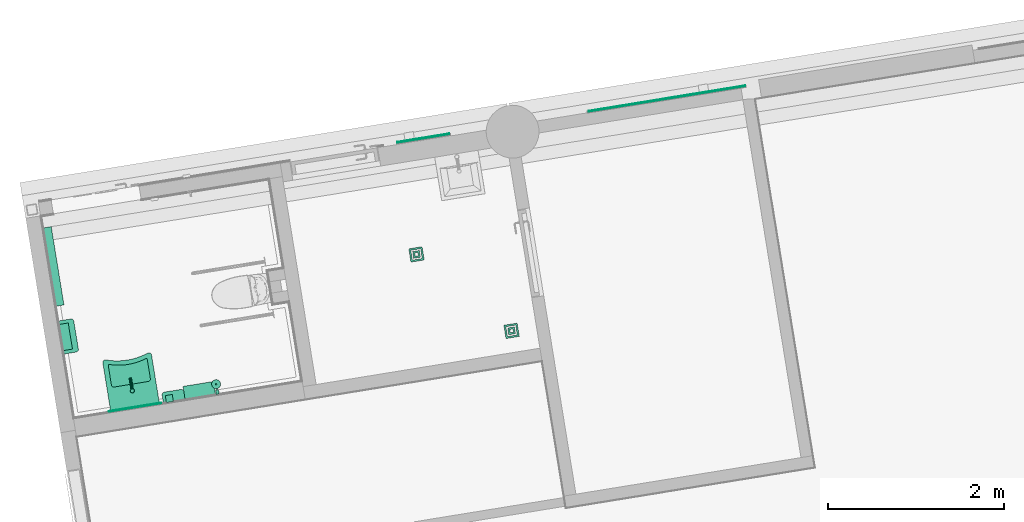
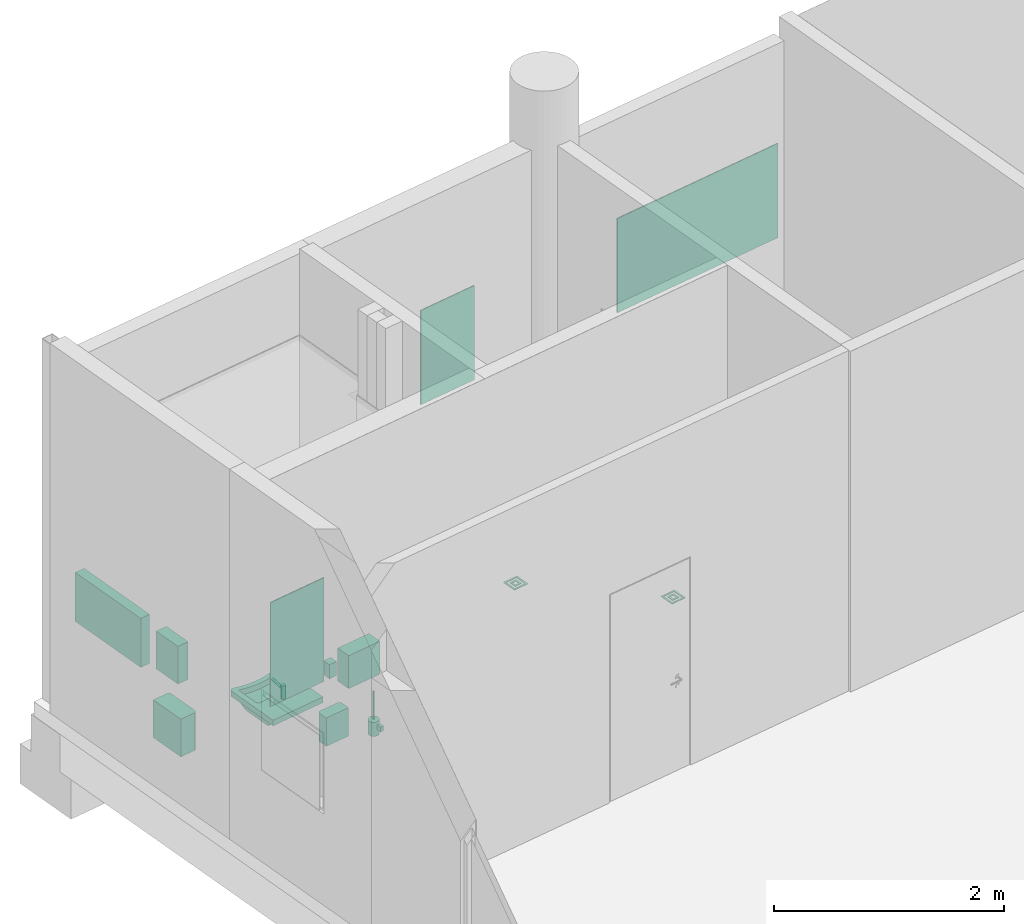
# One storey, part 31 of 38: 14 flow terminals.
"""IFC2X3 building model written with IfcOpenShell, lengths in millimetres."""

from ifc_helpers import new_model, entity, si_unit, converted_unit, derived_unit, direction, frame, frame_2d, origin, origin_with_axes, origin_2d_with_axis, place, context, subcontext, project, spatial, polyline, circle_curve, parameter, trimmed, segment, composite_curve, rectangle, circle, outline, extrude, source, transform, mapped, material, type_object, element, save


model = new_model("IFC2X3")

# Units and contexts
model_context = context("Model", 3, precision=0.01, world=origin(), true_north=direction((6.12323399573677e-17, 1.0)))
plan_context = context("Plan", 3, precision=1e-05, world=origin_with_axes())
body_context = subcontext(model_context, "Body", "Model", "MODEL_VIEW")
ifc_project = project(units=[converted_unit("PLANEANGLEUNIT", "DEGREE", entity("IfcPositiveLengthMeasure", 0.0174532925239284), si_unit("PLANEANGLEUNIT", "RADIAN"), dimensions=[0, 0, 0, 0, 0, 0, 0]), si_unit("AREAUNIT", "SQUARE_METRE"), si_unit("LENGTHUNIT", "METRE", prefix="MILLI"), si_unit("MASSUNIT", "GRAM", prefix="KILO"), si_unit("POWERUNIT", "WATT"), si_unit("PRESSUREUNIT", "PASCAL", prefix="KILO"), si_unit("FORCEUNIT", "NEWTON", prefix="KILO"), si_unit("ELECTRICVOLTAGEUNIT", "VOLT"), si_unit("ELECTRICCURRENTUNIT", "AMPERE"), si_unit("THERMODYNAMICTEMPERATUREUNIT", "DEGREE_CELSIUS"), si_unit("TIMEUNIT", "SECOND"), si_unit("VOLUMEUNIT", "CUBIC_METRE"), derived_unit("LINEARVELOCITYUNIT", [(si_unit("LENGTHUNIT", "METRE"), 1), (si_unit("TIMEUNIT", "SECOND"), -1)]), derived_unit("VOLUMETRICFLOWRATEUNIT", [(si_unit("VOLUMEUNIT", "CUBIC_METRE"), 1), (si_unit("TIMEUNIT", "SECOND"), -1)]), derived_unit("THERMALTRANSMITTANCEUNIT", [(si_unit("POWERUNIT", "WATT"), 1), (si_unit("THERMODYNAMICTEMPERATUREUNIT", "KELVIN"), -1), (si_unit("AREAUNIT", "SQUARE_METRE"), -1)]), derived_unit("SOUNDPRESSUREUNIT", [(si_unit("PRESSUREUNIT", "PASCAL"), 1)])], contexts=[model_context, plan_context])

# Site, building, storey
site_placement = place(None, frame((-0.00071070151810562, 0.00438415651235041, 0.0), z_axis=(0.0, 0.0, 1.0), x_axis=(-0.160236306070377, 0.987078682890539, 0.0)))
site = spatial("IfcSite", under=ifc_project, at=site_placement, Name="Default", CompositionType="ELEMENT")
building_placement = place(site_placement, origin_with_axes())
building = spatial("IfcBuilding", under=site, at=building_placement, Name="TOO", CompositionType="ELEMENT")
storey_placement = place(building_placement, frame((0.0, 0.0, 50999.9999999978), z_axis=(0.0, 0.0, 1.0), x_axis=(1.0, 0.0, 0.0)))
storey = spatial("IfcBuildingStorey", under=building, at=storey_placement, Name="Nivå D-H01", CompositionType="ELEMENT", Elevation=50999.9999999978)

# Flow terminals
ifc_material_1 = material(Name="NSW - white våtrom")
distribution_element_type_1 = type_object("IfcDistributionElementType", Name="A315 - 3D HC Vask:A315 - 3D HC Vask - 560 x 600 mm", material=ifc_material_1)
shared_shape_1 = source(origin(), body_context, "Body", "SweptSolid", [
    extrude(outline(composite_curve([segment(polyline([(-283.900277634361, -46.0), (154.23374074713, -46.0)]), True, "CONTINUOUS"), segment(polyline([(154.23374074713, -46.0), (154.23374074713, 4.0)]), True, "CONTINUOUS"), segment(trimmed(circle_curve(frame_2d((114.23374074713, 4.0), x_axis=(-1.0, 0.0)), 40.0), [parameter(180.0)], [parameter(269.999999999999)], True, "PARAMETER"), True, "CONTINUOUS"), segment(polyline([(114.23374074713, 44.0), (-138.800944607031, 44.0)]), True, "CONTINUOUS"), segment(trimmed(circle_curve(frame_2d((-138.800944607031, -117.965646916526), x_axis=(-1.0, 0.0)), 161.965646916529), [parameter(270.0)], [parameter(333.619736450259)], True, "PARAMETER"), True, "CONTINUOUS")], self_intersect=False)), frame((-109.0, 362.443967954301, 695.0), z_axis=(1.0, 0.0, 0.0), x_axis=(0.0, -1.0, 0.0)), (0.0, 0.0, 1.0), 467.999999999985),
    extrude(outline(composite_curve([segment(polyline([(-280.0, -336.744766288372), (280.0, -336.744766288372)]), True, "CONTINUOUS"), segment(polyline([(280.0, -336.744766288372), (280.0, -158.087065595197)]), True, "CONTINUOUS"), segment(polyline([(280.0, -158.087065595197), (280.0, 233.255233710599)]), True, "CONTINUOUS"), segment(trimmed(circle_curve(frame_2d((250.0, 233.255233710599), x_axis=(1.0, 0.0)), 30.0), [parameter(0.0)], [parameter(109.25756493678)], True, "PARAMETER"), True, "CONTINUOUS"), segment(trimmed(circle_curve(frame_2d((0.0, 948.841731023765), x_axis=(1.0, 0.0)), 728.000023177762), [parameter(250.742435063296)], [parameter(289.25756493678)], True, "PARAMETER"), False, "CONTINUOUS"), segment(trimmed(circle_curve(frame_2d((-250.0, 233.255233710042), x_axis=(1.0, 0.0)), 30.0), [parameter(70.7424350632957)], [parameter(180.0)], True, "PARAMETER"), True, "CONTINUOUS"), segment(polyline([(-280.0, 233.255233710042), (-280.0, -158.087065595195)]), True, "CONTINUOUS"), segment(polyline([(-280.0, -158.087065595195), (-280.0, -336.744766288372)]), True, "CONTINUOUS")], self_intersect=False), holes=[composite_curve([segment(polyline([(196.0, -57.2870655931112), (-196.0, -57.2870655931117)]), True, "CONTINUOUS"), segment(trimmed(circle_curve(frame_2d((-196.0, -29.2870655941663), x_axis=(1.0, 0.0)), 27.9999999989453), [parameter(180.000000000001)], [parameter(270.0)], True, "PARAMETER"), False, "CONTINUOUS"), segment(polyline([(-224.0, -29.2870655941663), (-224.0, 194.599479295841)]), True, "CONTINUOUS"), segment(trimmed(circle_curve(frame_2d((-214.0, 194.599479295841), x_axis=(1.0, 0.0)), 10.0), [parameter(71.7126409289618)], [parameter(180.0)], True, "PARAMETER"), False, "CONTINUOUS"), segment(trimmed(circle_curve(frame_2d((-3.8332501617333e-09, 842.154906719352), x_axis=(1.0, 0.0)), 672.000023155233), [parameter(251.712640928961)], [parameter(288.287359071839)], True, "PARAMETER"), True, "CONTINUOUS"), segment(trimmed(circle_curve(frame_2d((214.0, 194.599479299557), x_axis=(1.0, 0.0)), 9.99999999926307), [parameter(0.0)], [parameter(108.28735907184)], True, "PARAMETER"), False, "CONTINUOUS"), segment(polyline([(224.0, 194.599479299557), (224.0, -29.2870655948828)]), True, "CONTINUOUS"), segment(trimmed(circle_curve(frame_2d((196.0, -29.2870655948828), x_axis=(1.0, 0.0)), 27.9999999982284), [parameter(270.0)], [parameter(4.07110999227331e-13)], True, "PARAMETER"), False, "CONTINUOUS")], self_intersect=False)]), frame((125.0, 441.744766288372, 740.0)), (0.0, 0.0, 1.0), 60.0000000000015),
])
flow_terminal_1_placement = place(storey_placement, frame((777357.619644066, -589647.48173883, 50.0), z_axis=(0.0, 0.0, 1.0), x_axis=(0.0, -1.0, 0.0)))
element("IfcFlowTerminal", 1, at=flow_terminal_1_placement, inside=storey, type_object=distribution_element_type_1, material=ifc_material_1, Name="A315 - 3D HC Vask:A315 - 3D HC Vask - 560 x 600 mm", ObjectType="A315 - 3D HC Vask:A315 - 3D HC Vask - 560 x 600 mm", context=body_context, shape_type="MappedRepresentation", body=[
    mapped(shared_shape_1, transform((0.0, 0.0, 0.0), scale=1.0)),
])
distribution_element_type_2 = type_object("IfcDistributionElementType", Name="A271 - Stellebord_JJ:A271 - 80x900_JJ", material=ifc_material_1)
shared_shape_2 = source(origin(), body_context, "Body", "SweptSolid", [
    extrude(rectangle(XDim=20.0000000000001, YDim=900.0, at=origin_2d_with_axis()), frame((125.0, 175.0, 900.0), z_axis=(0.0, 0.0, 1.0), x_axis=(0.0, 1.0, 0.0)), (0.0, 0.0, 1.0), 520.000000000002),
    extrude(rectangle(XDim=80.0000000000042, YDim=900.0, at=frame_2d((-1.77635683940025e-14, 0.0), x_axis=(1.0, 0.0))), frame((125.0, 125.0, 900.0), z_axis=(0.0, 0.0, 1.0), x_axis=(0.0, 1.0, 0.0)), (0.0, 0.0, 1.0), 520.000000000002),
])
flow_terminal_2_placement = place(storey_placement, frame((779327.619644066, -588977.48173883, 0.0), z_axis=(0.0, 0.0, 1.0), x_axis=(-1.0, 0.0, 0.0)))
element("IfcFlowTerminal", 2, at=flow_terminal_2_placement, inside=storey, type_object=distribution_element_type_2, material=ifc_material_1, Name="A271 - Stellebord_JJ:A271 - 80x900_JJ", ObjectType="A271 - Stellebord_JJ:A271 - 80x900_JJ", context=body_context, shape_type="MappedRepresentation", body=[
    mapped(shared_shape_2, transform((0.0, 0.0, 0.0), scale=1.0)),
])
ifc_material_2 = material(Name="<Unnamed>")
distribution_element_type_3 = type_object("IfcDistributionElementType", Name="A274 - WC Børste:A274 - WC Børste", material=ifc_material_2)
shared_shape_3 = source(origin(), body_context, "Body", "SweptSolid", [
    extrude(rectangle(XDim=18.3229302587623, YDim=14.6503029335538, at=frame_2d((0.0, 8.43769498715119e-15), x_axis=(1.0, 0.0))), frame((125.230473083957, 60.1614651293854, 243.829893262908), z_axis=(0.0, 0.0, 1.0), x_axis=(0.0, 1.0, 0.0)), (0.0, 0.0, 1.0), 27.4808758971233),
    extrude(circle(Radius=8.00000000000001, at=frame_2d((0.0, -1.69197988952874e-14), x_axis=(1.0, 0.0))), frame((125.0, 121.0, 300.0)), (0.0, 0.0, 1.0), 300.0),
    extrude(rectangle(XDim=45.0000000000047, YDim=35.0, at=origin_2d_with_axis()), frame((125.0, 28.5000000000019, 231.946271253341), z_axis=(0.0, 0.0, 1.0), x_axis=(0.0, 1.0, 0.0)), (0.0, 0.0, 1.0), 50.5053935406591),
    extrude(circle(Radius=51.0, at=frame_2d((-1.69197988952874e-14, -8.45989944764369e-14), x_axis=(1.0, 0.0))), frame((125.0, 121.0, 150.0)), (0.0, 0.0, 1.0), 150.0),
])
flow_terminal_3_placement = place(storey_placement, frame((777467.619644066, -590597.481738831, -50.0), z_axis=(0.0, 0.0, 1.0), x_axis=(0.0, -1.0, 0.0)))
element("IfcFlowTerminal", 3, at=flow_terminal_3_placement, inside=storey, type_object=distribution_element_type_3, material=ifc_material_2, Name="A274 - WC Børste:A274 - WC Børste", ObjectType="A274 - WC Børste:A274 - WC Børste", context=body_context, shape_type="MappedRepresentation", body=[
    mapped(shared_shape_3, transform((0.0, 0.0, 0.0), scale=1.0)),
])
distribution_element_type_4 = type_object("IfcDistributionElementType", Name="A274 - Toalettrull &Avfall Liten:A274 - Toalettrull 350x350mm", material=ifc_material_1)
shared_shape_4 = source(origin(), body_context, "Body", "SweptSolid", [
    extrude(rectangle(XDim=1.00000000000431, YDim=350.0, at=origin_2d_with_axis()), frame((125.0, 5.50000000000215, 750.0), z_axis=(0.0, 0.0, 1.0), x_axis=(0.0, 1.0, 0.0)), (0.0, 0.0, 1.0), 350.000000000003),
    extrude(rectangle(XDim=150.000000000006, YDim=350.0, at=origin_2d_with_axis()), frame((125.0, 81.0, 750.0), z_axis=(0.0, 0.0, 1.0), x_axis=(0.0, 1.0, 0.0)), (0.0, 0.0, 1.0), 350.000000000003),
])
flow_terminal_4_placement = place(storey_placement, frame((777467.619644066, -590397.481738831, 50.0), z_axis=(0.0, 0.0, 1.0), x_axis=(0.0, -1.0, 0.0)))
element("IfcFlowTerminal", 4, at=flow_terminal_4_placement, inside=storey, type_object=distribution_element_type_4, material=ifc_material_1, Name="A274 - Toalettrull &Avfall Liten:A274 - Toalettrull 350x350mm", ObjectType="A274 - Toalettrull &Avfall Liten:A274 - Toalettrull 350x350mm", context=body_context, shape_type="MappedRepresentation", body=[
    mapped(shared_shape_4, transform((0.0, 0.0, 0.0), scale=1.0)),
])
distribution_element_type_5 = type_object("IfcDistributionElementType", Name="A274 - Avfall Liten:A274 - Avfall Liten", material=ifc_material_1)
shared_shape_5 = source(origin(), body_context, "Body", "SweptSolid", [
    extrude(rectangle(XDim=1.00000000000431, YDim=250.0, at=origin_2d_with_axis()), frame((125.0, 5.50000000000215, 250.0), z_axis=(0.0, 0.0, 1.0), x_axis=(0.0, 1.0, 0.0)), (0.0, 0.0, 1.0), 300.0),
    extrude(outline(composite_curve([segment(polyline([(-70.0, -125.0), (20.0, -125.0)]), True, "CONTINUOUS"), segment(trimmed(circle_curve(frame_2d((20.0, -95.0), x_axis=(0.0, -1.0)), 30.0), [parameter(360.0)], [parameter(89.9999999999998)], True, "PARAMETER"), True, "CONTINUOUS"), segment(polyline([(50.0, -95.0), (50.0, 95.0)]), True, "CONTINUOUS"), segment(trimmed(circle_curve(frame_2d((20.0, 95.0), x_axis=(0.0, -1.0)), 30.0), [parameter(90.0)], [parameter(180.0)], True, "PARAMETER"), True, "CONTINUOUS"), segment(polyline([(20.0, 125.0), (-70.0, 125.0)]), True, "CONTINUOUS"), segment(polyline([(-70.0, 125.0), (-70.0, -125.0)]), True, "CONTINUOUS")], self_intersect=False)), frame((125.0, 76.0, 250.0), z_axis=(0.0, 0.0, 1.0), x_axis=(0.0, 1.0, 0.0)), (0.0, 0.0, 1.0), 300.0),
])
flow_terminal_5_placement = place(storey_placement, frame((777467.619644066, -590097.48173883, 50.0), z_axis=(0.0, 0.0, 1.0), x_axis=(0.0, -1.0, 0.0)))
element("IfcFlowTerminal", 5, at=flow_terminal_5_placement, inside=storey, type_object=distribution_element_type_5, material=ifc_material_1, Name="A274 - Avfall Liten:A274 - Avfall Liten", ObjectType="A274 - Avfall Liten:A274 - Avfall Liten", context=body_context, shape_type="MappedRepresentation", body=[
    mapped(shared_shape_5, transform((0.0, 0.0, 0.0), scale=1.0)),
])
distribution_element_type_6 = type_object("IfcDistributionElementType", Name="A274 - Håndtørkepapir:A274 - Håndtorke-papir - 330 x 330 x 220 mm", material=ifc_material_1)
shared_shape_6 = source(origin(), body_context, "Body", "SweptSolid", [
    extrude(rectangle(XDim=299.999999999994, YDim=115.000000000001, at=frame_2d((0.0, 1.77635683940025e-14), x_axis=(1.0, 0.0))), frame((125.0, 142.500000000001, 1000.0), z_axis=(0.0, 0.0, 1.0), x_axis=(-1.0, 0.0, 0.0)), (0.0, 0.0, 1.0), 400.0),
])
flow_terminal_6_placement = place(storey_placement, frame((778517.619644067, -588977.48173883, 0.0), z_axis=(0.0, 0.0, 1.0), x_axis=(-1.0, 0.0, 0.0)))
element("IfcFlowTerminal", 6, at=flow_terminal_6_placement, inside=storey, type_object=distribution_element_type_6, material=ifc_material_1, Name="A274 - Håndtørkepapir:A274 - Håndtorke-papir - 330 x 330 x 220 mm", ObjectType="A274 - Håndtørkepapir:A274 - Håndtorke-papir - 330 x 330 x 220 mm", context=body_context, shape_type="MappedRepresentation", body=[
    mapped(shared_shape_6, transform((0.0, 0.0, 0.0), scale=1.0)),
])
distribution_element_type_7 = type_object("IfcDistributionElementType", Name="A274 - Avfall:A274 - Avfall", material=ifc_material_1)
shared_shape_7 = source(origin(), body_context, "Body", "SweptSolid", [
    extrude(rectangle(XDim=1.00000000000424, YDim=380.0, at=origin_2d_with_axis()), frame((125.0, 85.5000000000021, 250.0), z_axis=(0.0, 0.0, 1.0), x_axis=(0.0, 1.0, 0.0)), (0.0, 0.0, 1.0), 400.000000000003),
    extrude(outline(composite_curve([segment(polyline([(-110.0, -190.0), (40.0, -190.0)]), True, "CONTINUOUS"), segment(trimmed(circle_curve(frame_2d((40.0, -160.0), x_axis=(0.0, -1.0)), 30.0), [parameter(360.0)], [parameter(89.9999999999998)], True, "PARAMETER"), True, "CONTINUOUS"), segment(polyline([(70.0, -160.0), (70.0, 160.0)]), True, "CONTINUOUS"), segment(trimmed(circle_curve(frame_2d((40.0, 160.0), x_axis=(0.0, -1.0)), 30.0), [parameter(90.0000000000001)], [parameter(180.0)], True, "PARAMETER"), True, "CONTINUOUS"), segment(polyline([(40.0, 190.0), (-110.0, 190.0)]), True, "CONTINUOUS"), segment(polyline([(-110.0, 190.0), (-110.0, -190.0)]), True, "CONTINUOUS")], self_intersect=False)), frame((125.0, 196.0, 250.0), z_axis=(0.0, 0.0, 1.0), x_axis=(0.0, 1.0, 0.0)), (0.0, 0.0, 1.0), 400.000000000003),
])
flow_terminal_7_placement = place(storey_placement, frame((778517.619644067, -588977.48173883, 0.0), z_axis=(0.0, 0.0, 1.0), x_axis=(-1.0, 0.0, 0.0)))
element("IfcFlowTerminal", 7, at=flow_terminal_7_placement, inside=storey, type_object=distribution_element_type_7, material=ifc_material_1, Name="A274 - Avfall:A274 - Avfall", ObjectType="A274 - Avfall:A274 - Avfall", context=body_context, shape_type="MappedRepresentation", body=[
    mapped(shared_shape_7, transform((0.0, 0.0, 0.0), scale=1.0)),
])
distribution_element_type_8 = type_object("IfcDistributionElementType", Name="A274 - Såpedisp:A274 - Såpedispenser 80x150 mm", material=ifc_material_1)
shared_shape_8 = source(origin(), body_context, "Body", "SweptSolid", [
    extrude(rectangle(XDim=79.9999999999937, YDim=80.0000000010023, at=frame_2d((7.105427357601e-15, 7.105427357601e-15), x_axis=(1.0, 0.0))), frame((125.0, 45.0, 1050.0), z_axis=(0.0, 0.0, 1.0), x_axis=(-1.0, 0.0, 0.0)), (0.0, 0.0, 1.0), 150.0),
])
flow_terminal_8_placement = place(storey_placement, frame((777467.619644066, -590047.481738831, -50.0), z_axis=(0.0, 0.0, 1.0), x_axis=(0.0, -1.0, 0.0)))
element("IfcFlowTerminal", 8, at=flow_terminal_8_placement, inside=storey, type_object=distribution_element_type_8, material=ifc_material_1, Name="A274 - Såpedisp:A274 - Såpedispenser 80x150 mm", ObjectType="A274 - Såpedisp:A274 - Såpedispenser 80x150 mm", context=body_context, shape_type="MappedRepresentation", body=[
    mapped(shared_shape_8, transform((0.0, 0.0, 0.0), scale=1.0)),
])
ifc_material_3 = material(Name="Speil")
distribution_element_type_9 = type_object("IfcDistributionElementType", Name="A274 - Vegghengt speil:A274 - GL01 Speil_Vegg hengt-HWC", material=ifc_material_3)
shared_shape_9 = source(origin(), body_context, "Body", "SweptSolid", [
    extrude(rectangle(XDim=9.99999999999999, YDim=600.0, at=origin_2d_with_axis()), frame((125.0, 10.0, 900.0), z_axis=(0.0, 0.0, 1.0), x_axis=(0.0, 1.0, 0.0)), (0.0, 0.0, 1.0), 1100.0),
])
flow_terminal_9_placement = place(storey_placement, frame((777467.619644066, -589647.48173883, 100.0), z_axis=(0.0, 0.0, 1.0), x_axis=(0.0, -1.0, 0.0)))
element("IfcFlowTerminal", 9, at=flow_terminal_9_placement, inside=storey, type_object=distribution_element_type_9, material=ifc_material_3, Name="A274 - Vegghengt speil:A274 - GL01 Speil_Vegg hengt-HWC", ObjectType="A274 - Vegghengt speil:A274 - GL01 Speil_Vegg hengt-HWC", context=body_context, shape_type="MappedRepresentation", body=[
    mapped(shared_shape_9, transform((0.0, 0.0, 0.0), scale=1.0)),
])
distribution_element_type_10 = type_object("IfcDistributionElementType", Name="A274 - Vegghengt speil:A274 - GL04 Speil_Veg hengt-1800mm", material=ifc_material_3)
shared_shape_10 = source(origin(), body_context, "Body", "SweptSolid", [
    extrude(rectangle(XDim=9.99999999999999, YDim=1800.0, at=origin_2d_with_axis()), frame((125.0, 10.0, 1200.0), z_axis=(0.0, 0.0, 1.0), x_axis=(0.0, 1.0, 0.0)), (0.0, 0.0, 1.0), 1000.0),
])
flow_terminal_10_placement = place(storey_placement, frame((779957.619644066, -596167.481738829, 0.0), z_axis=(0.0, 0.0, 1.0), x_axis=(0.0, -1.0, 0.0)))
element("IfcFlowTerminal", 10, at=flow_terminal_10_placement, inside=storey, type_object=distribution_element_type_10, material=ifc_material_3, Name="A274 - Vegghengt speil:A274 - GL04 Speil_Veg hengt-1800mm", ObjectType="A274 - Vegghengt speil:A274 - GL04 Speil_Veg hengt-1800mm", context=body_context, shape_type="MappedRepresentation", body=[
    mapped(shared_shape_10, transform((0.0, 0.0, 0.0), scale=1.0)),
])
distribution_element_type_11 = type_object("IfcDistributionElementType", Name="A274 - Vegghengt speil:A274 - GL08 Speil_Vegg hengt-600mm", material=ifc_material_3)
shared_shape_11 = source(origin(), body_context, "Body", "SweptSolid", [
    extrude(rectangle(XDim=9.99999999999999, YDim=600.0, at=origin_2d_with_axis()), frame((125.0, 10.0, 1200.0), z_axis=(0.0, 0.0, 1.0), x_axis=(0.0, 1.0, 0.0)), (0.0, 0.0, 1.0), 1000.0),
])
flow_terminal_11_placement = place(storey_placement, frame((779957.619644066, -593364.731738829, 0.0), z_axis=(0.0, 0.0, 1.0), x_axis=(0.0, -1.0, 0.0)))
element("IfcFlowTerminal", 11, at=flow_terminal_11_placement, inside=storey, type_object=distribution_element_type_11, material=ifc_material_3, Name="A274 - Vegghengt speil:A274 - GL08 Speil_Vegg hengt-600mm", ObjectType="A274 - Vegghengt speil:A274 - GL08 Speil_Vegg hengt-600mm", context=body_context, shape_type="MappedRepresentation", body=[
    mapped(shared_shape_11, transform((0.0, 0.0, 0.0), scale=1.0)),
])
distribution_element_type_12 = type_object("IfcDistributionElementType", Name="A315 - Armatur:L983C", material=ifc_material_2)
shared_shape_12 = source(origin(), body_context, "Body", "SweptSolid", [
    extrude(circle(Radius=15.0, at=frame_2d((0.0, -6.95890887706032e-14), x_axis=(1.0, 0.0))), frame((0.0, -147.389900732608, 125.836430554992), z_axis=(0.0, 0.984807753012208, -0.17364817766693), x_axis=(1.0, 0.0, 0.0)), (0.0, 0.0, 1.0), 143.522762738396),
    extrude(circle(Radius=22.0, at=frame_2d((0.0, -3.55419806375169e-14), x_axis=(1.0, 0.0))), frame((0.0, 0.0, 6.0)), (0.0, 0.0, 1.0), 136.0),
    extrude(circle(Radius=25.0, at=frame_2d((0.0, -4.03886143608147e-14), x_axis=(1.0, 0.0))), origin(), (0.0, 0.0, 1.0), 6.0),
])
flow_terminal_12_placement = place(storey_placement, frame((777666.27734476, -589772.48173883, 850.0), z_axis=(0.0, 0.0, 1.0), x_axis=(0.0, 1.0, 0.0)))
element("IfcFlowTerminal", 12, at=flow_terminal_12_placement, inside=storey, type_object=distribution_element_type_12, material=ifc_material_2, Name="A315 - Armatur:L983C", ObjectType="A315 - Armatur:L983C", context=body_context, shape_type="MappedRepresentation", body=[
    mapped(shared_shape_12, transform((0.0, 0.0, 0.0), scale=1.0)),
])
distribution_element_type_13 = type_object("IfcDistributionElementType", Name="A315 -  3D Gulvsluk:Sluk", material=ifc_material_2)
shared_shape_13 = source(origin(), body_context, "Body", "SweptSolid", [
    extrude(outline(polyline([(-76.2, -76.2), (76.2, -76.2), (76.2, 76.2), (-76.2, 76.2), (-76.2, -76.2)]), holes=[polyline([(-57.15, -57.15), (-57.15, 57.15), (57.15, 57.15), (57.15, -57.15), (-57.15, -57.15)])]), frame((0.0, 0.0, 0.0), z_axis=(0.0, 0.0, 1.0), x_axis=(0.0, -1.0, 0.0)), (0.0, 0.0, 1.0), 5.0),
    extrude(outline(polyline([(-38.1, -38.1), (38.1, -38.1), (38.1, 38.1), (-38.1, 38.1), (-38.1, -38.1)]), holes=[polyline([(-19.05, -19.05), (-19.05, 19.05), (19.05, 19.05), (19.05, -19.05), (-19.05, -19.05)])]), frame((0.0, 0.0, 0.0), z_axis=(0.0, 0.0, 1.0), x_axis=(0.0, 1.0, 0.0)), (0.0, 0.0, 1.0), 5.0),
])
for number, where, z_axis, x_axis in (
    (13, (778677.619644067, -593202.980498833, 0.0), (0.0, 0.0, 1.0), (1.0, 0.0, 0.0)),
    (14, (777648.819644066, -594128.780498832, 0.0), (0.0, 0.0, 1.0), (1.0, 0.0, 0.0)),
):
    element("IfcFlowTerminal", number, at=place(storey_placement, frame(where, z_axis=z_axis, x_axis=x_axis)), inside=storey, type_object=distribution_element_type_13, material=ifc_material_2, Name="A315 -  3D Gulvsluk:Sluk", ObjectType="A315 -  3D Gulvsluk:Sluk", context=body_context, shape_type="MappedRepresentation", body=[
        mapped(shared_shape_13, transform((0.0, 0.0, 0.0), scale=1.0)),
    ])

save(model, "model.ifc")
